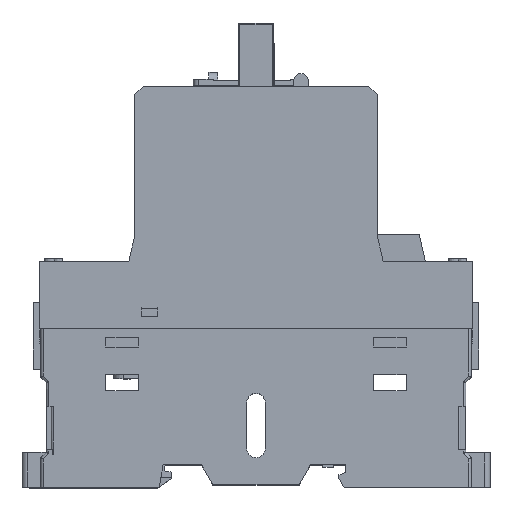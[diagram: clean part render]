
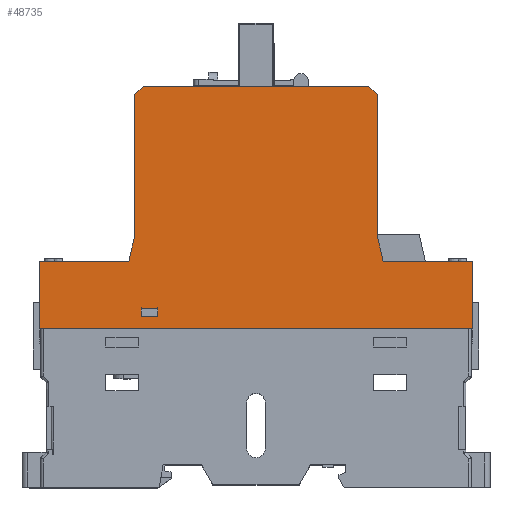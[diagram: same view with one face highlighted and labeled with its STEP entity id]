
A CAD part, top view. The second image highlights one B-rep face of the part: STEP entity #48735.
In plain terms, the highlighted planar face has unit normal (0, 0, 1).
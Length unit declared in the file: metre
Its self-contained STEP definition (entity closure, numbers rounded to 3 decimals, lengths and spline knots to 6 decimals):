
#41531=CARTESIAN_POINT('',(0.037305,0.010786,0.049028));
#41532=VERTEX_POINT('',#41531);
#41535=CARTESIAN_POINT('',(0.037305,0.010786,0.049028));
#41536=DIRECTION('',(-0.224,-0.975,0.));
#41537=VECTOR('',#41536,1.);
#41538=LINE('',#41535,#41537);
#41539=CARTESIAN_POINT('',(0.038455,0.015786,0.049028));
#41540=VERTEX_POINT('',#41539);
#41541=EDGE_CURVE('',#41540,#41532,#41538,.T.);
#41565=CARTESIAN_POINT('',(0.038455,0.043286,0.049028));
#41566=DIRECTION('',(0.,-1.,0.));
#41567=VECTOR('',#41566,1.);
#41568=LINE('',#41565,#41567);
#41569=CARTESIAN_POINT('',(0.038455,0.041786,0.049028));
#41570=VERTEX_POINT('',#41569);
#41571=EDGE_CURVE('',#41570,#41540,#41568,.T.);
#41604=CARTESIAN_POINT('',(0.038455,0.041786,0.049028));
#41605=DIRECTION('',(0.707,0.707,0.));
#41606=VECTOR('',#41605,1.);
#41607=LINE('',#41604,#41606);
#41608=CARTESIAN_POINT('',(0.039955,0.043286,0.049028));
#41609=VERTEX_POINT('',#41608);
#41610=EDGE_CURVE('',#41570,#41609,#41607,.T.);
#43978=CARTESIAN_POINT('',(0.101155,-0.001714,0.049028));
#43979=VERTEX_POINT('',#43978);
#43982=CARTESIAN_POINT('',(0.020955,-0.001714,0.049028));
#43983=DIRECTION('',(1.,0.,0.));
#43984=VECTOR('',#43983,1.);
#43985=LINE('',#43982,#43984);
#43986=CARTESIAN_POINT('',(0.020755,-0.001714,0.049028));
#43987=VERTEX_POINT('',#43986);
#43988=EDGE_CURVE('',#43987,#43979,#43985,.T.);
#44951=CARTESIAN_POINT('',(0.020755,-0.001714,0.049028));
#44952=DIRECTION('',(0.,1.,0.));
#44953=VECTOR('',#44952,1.);
#44954=LINE('',#44951,#44953);
#44955=CARTESIAN_POINT('',(0.020755,0.010786,0.049028));
#44956=VERTEX_POINT('',#44955);
#44957=EDGE_CURVE('',#43987,#44956,#44954,.T.);
#46255=CARTESIAN_POINT('',(0.101155,0.010786,0.049028));
#46256=VERTEX_POINT('',#46255);
#46259=CARTESIAN_POINT('',(0.101155,0.010786,0.049028));
#46260=DIRECTION('',(0.,-1.,0.));
#46261=VECTOR('',#46260,1.);
#46262=LINE('',#46259,#46261);
#46263=EDGE_CURVE('',#46256,#43979,#46262,.T.);
#48469=CARTESIAN_POINT('',(0.084605,0.010786,0.049028));
#48470=VERTEX_POINT('',#48469);
#48473=CARTESIAN_POINT('',(0.084605,0.010786,0.049028));
#48474=DIRECTION('',(-1.,0.,0.));
#48475=VECTOR('',#48474,1.);
#48476=LINE('',#48473,#48475);
#48477=EDGE_CURVE('',#46256,#48470,#48476,.T.);
#48602=CARTESIAN_POINT('',(0.083455,0.015786,0.049028));
#48603=VERTEX_POINT('',#48602);
#48606=CARTESIAN_POINT('',(0.084605,0.010786,0.049028));
#48607=DIRECTION('',(-0.224,0.975,0.));
#48608=VECTOR('',#48607,1.);
#48609=LINE('',#48606,#48608);
#48610=EDGE_CURVE('',#48470,#48603,#48609,.T.);
#48629=CARTESIAN_POINT('',(0.081955,0.043286,0.049028));
#48630=DIRECTION('',(0.707,-0.707,0.));
#48631=VECTOR('',#48630,1.);
#48632=LINE('',#48629,#48631);
#48633=CARTESIAN_POINT('',(0.081955,0.043286,0.049028));
#48634=VERTEX_POINT('',#48633);
#48635=CARTESIAN_POINT('',(0.083455,0.041786,0.049028));
#48636=VERTEX_POINT('',#48635);
#48637=EDGE_CURVE('',#48634,#48636,#48632,.T.);
#48684=CARTESIAN_POINT('',(0.083455,0.043286,0.049028));
#48685=DIRECTION('',(0.,1.,0.));
#48686=VECTOR('',#48685,1.);
#48687=LINE('',#48684,#48686);
#48688=EDGE_CURVE('',#48603,#48636,#48687,.T.);
#48706=CARTESIAN_POINT('',(0.020955,0.010786,0.049028));
#48707=DIRECTION('',(0.,0.,-1.));
#48708=DIRECTION('',(-1.,0.,0.));
#48709=AXIS2_PLACEMENT_3D('',#48706,#48707,#48708);
#48710=PLANE('',#48709);
#48711=ORIENTED_EDGE('',*,*,#48688,.T.);
#48712=ORIENTED_EDGE('',*,*,#48637,.F.);
#48713=CARTESIAN_POINT('',(0.038455,0.043286,0.049028));
#48714=DIRECTION('',(-1.,0.,0.));
#48715=VECTOR('',#48714,1.);
#48716=LINE('',#48713,#48715);
#48717=EDGE_CURVE('',#48634,#41609,#48716,.T.);
#48718=ORIENTED_EDGE('',*,*,#48717,.T.);
#48719=ORIENTED_EDGE('',*,*,#41610,.F.);
#48720=ORIENTED_EDGE('',*,*,#41571,.T.);
#48721=ORIENTED_EDGE('',*,*,#41541,.T.);
#48722=CARTESIAN_POINT('',(0.020955,0.010786,0.049028));
#48723=DIRECTION('',(-1.,0.,0.));
#48724=VECTOR('',#48723,1.);
#48725=LINE('',#48722,#48724);
#48726=EDGE_CURVE('',#41532,#44956,#48725,.T.);
#48727=ORIENTED_EDGE('',*,*,#48726,.T.);
#48728=ORIENTED_EDGE('',*,*,#44957,.F.);
#48729=ORIENTED_EDGE('',*,*,#43988,.T.);
#48730=ORIENTED_EDGE('',*,*,#46263,.F.);
#48731=ORIENTED_EDGE('',*,*,#48477,.T.);
#48732=ORIENTED_EDGE('',*,*,#48610,.T.);
#48733=EDGE_LOOP('',(#48711,#48712,#48718,#48719,#48720,#48721,#48727,#48728,#48729,#48730,#48731,#48732));
#48734=FACE_BOUND('',#48733,.T.);
#48735=ADVANCED_FACE('',(#48734),#48710,.F.);
